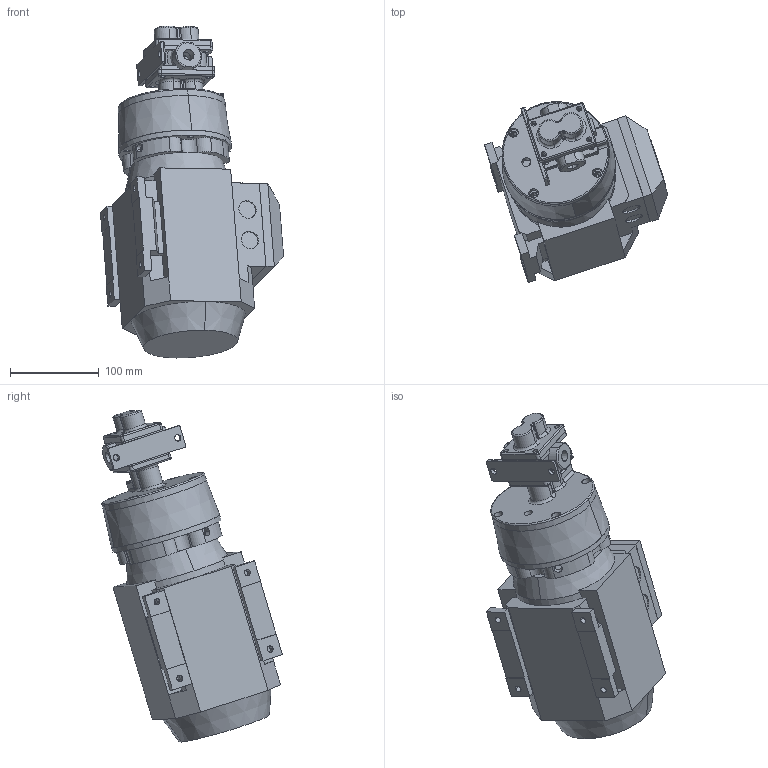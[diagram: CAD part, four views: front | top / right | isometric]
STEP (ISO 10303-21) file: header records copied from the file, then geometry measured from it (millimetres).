
FILE_DESCRIPTION (( 'STEP AP214' ), '1' );
FILE_NAME ('GMC2 FNPT IEC71 MOTOR.STEP', '2025-08-28T14:42:53', ( '' ), ( '' ), 'SwSTEP 2.0', 'SolidWorks 2024', '' );
FILE_SCHEMA (( 'AUTOMOTIVE_DESIGN' ));
Length unit declared in the file: inch
Products named in the file (1): GMC2 FNPT IEC71 MOTOR
Bounding box: 205.83 x 203.12 x 373.09 mm (x, y, z)
Volume: 3852145.4 mm3; surface area: 313214.2 mm2
Topology: 6 solids, 6 shells, 817 faces, 2068 edges, 1295 vertices
Faces by surface type: cylinder 372, plane 278, cone 66, torus 63, bspline 24, sphere 14
Entity records: 26669 total; most frequent: CARTESIAN_POINT 6362, DIRECTION 4463, ORIENTED_EDGE 4076, EDGE_CURVE 2038, AXIS2_PLACEMENT_3D 1738, VERTEX_POINT 1295, VECTOR 987, LINE 987
